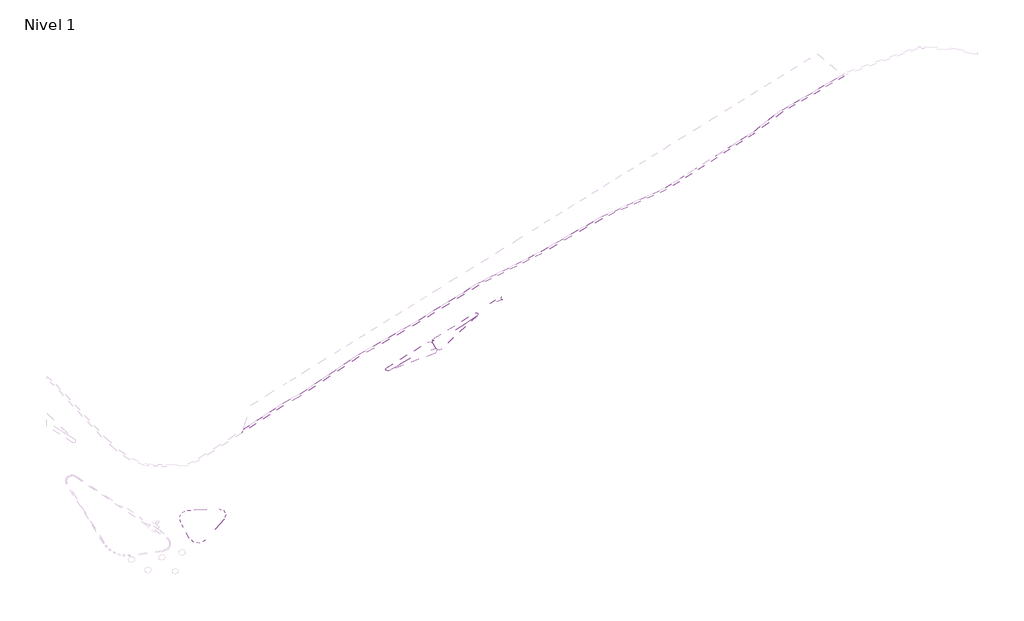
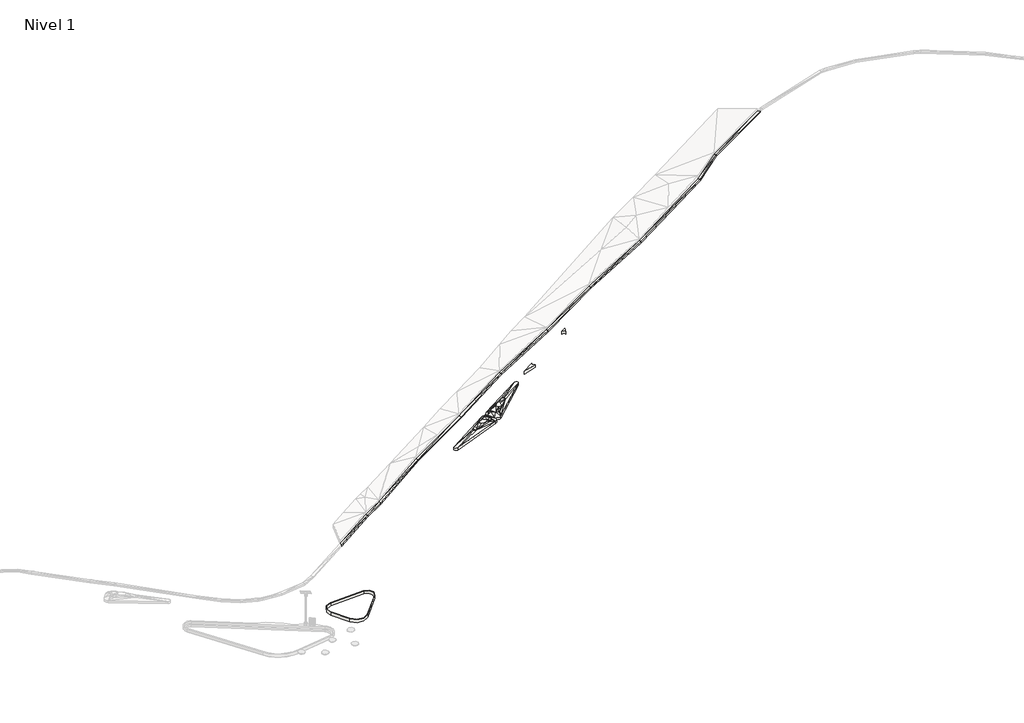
# One storey, part 40 of 45: 5 slabs.
"""IFC4 building model written with IfcOpenShell, lengths in millimetres."""

from ifc_helpers import new_model, si_unit, point, frame, frame_2d, origin, place, context, project, spatial, polyline, circle_curve, trimmed, segment, composite_curve, outline, extrude, faceted_brep, element, save
from ifc_brep_helpers import plane_surface, cylinder_surface, revolved_surface, spline_surface, advanced_brep

model = new_model("IFC4")

# Units and contexts
model_context = context("Model", 3, world=origin())
ifc_project = project(units=[si_unit("LENGTHUNIT", "METRE", prefix="MILLI")], contexts=[model_context])

# Site, building, storey
site = spatial("IfcSite", under=ifc_project)
building = spatial("IfcBuilding", under=site)
storey = spatial("IfcBuildingStorey", under=building, Name="Nivel 1", Elevation=0.0)

# Slabs
placement = place(None, origin())
element("IfcSlab", 1, ObjectType="Lippia", at=placement, inside=storey, context=model_context, shape_type="AdvancedBrep", body=[
    advanced_brep(
    [(-19446.5890111, 959703.6329509, 5950.0), (-19446.5890111, 959703.6329509, 6250.0), (-18975.1453315, 958944.8251491, 6250.0), (-18975.1453315, 958944.8251491, 5950.0), (-19225.9117559, 958212.1872078, 6250.0), (-19225.9117559, 958212.1872078, 5950.0), (-25838.6760078, 955734.2885245, 6250.0), (-25838.6760078, 955734.2885245, 5950.0), (-26057.2546137, 956181.4156722, 5950.0), (-26057.2546137, 956181.4156722, 6250.0), (-20131.8371709, 959862.7200023, 6250.0), (-20131.8371709, 959862.7200023, 5950.0), (-19649.2271001, 958771.1200759, 6550.0), (-19753.8031912, 959260.6513039, 6550.0), (-19649.2271001, 958771.1200759, 6250.0), (-19753.8031912, 959260.6513039, 6250.0), (-21224.1040418, 958074.0090709, 6750.0), (-20934.3795615, 958077.0677058, 6750.0), (-20644.6550812, 958080.1263408, 6750.0), (-20400.4890803, 958369.9356582, 6750.0), (-20717.556971, 958688.2029752, 6750.0), (-21000.0734548, 958628.1484551, 6750.0), (-21233.3973375, 958578.5508048, 6750.0), (-21476.9887009, 958294.5785488, 6750.0), (-21224.1040418, 958074.0090709, 6450.0), (-21476.9887009, 958294.5785488, 6450.0), (-21233.3973375, 958578.5508048, 6450.0), (-21000.0734548, 958628.1484551, 6450.0), (-20717.556971, 958688.2029752, 6450.0), (-20400.4890803, 958369.9356582, 6450.0), (-20644.6550812, 958080.1263408, 6450.0), (-20934.3795615, 958077.0677058, 6450.0), (-20133.0261533, 959418.9947849, 6550.0), (-19901.9576867, 959439.1099918, 6550.0), (-20133.0261533, 959418.9947849, 6250.0), (-19901.9576867, 959439.1099918, 6250.0), (-19704.3209542, 958411.8674862, 6550.0), (-19704.3209542, 958411.8674862, 6250.0), (-19988.1429688, 958184.8370477, 6550.0), (-22342.9181989, 957437.8532576, 6550.0), (-22342.9181989, 957437.8532576, 6250.0), (-19988.1429688, 958184.8370477, 6250.0), (-22552.2219701, 957887.3889263, 6550.0), (-22552.2219701, 957887.3889263, 6250.0), (-22645.1445693, 957570.6186077, 6550.0), (-22645.1445693, 957570.6186077, 6250.0)],
    [
        (0, 1),
        (1, 2),
        (2, 3),
        (3, 0),
        (2, 4, circle_curve(frame((-19399.8530565, 958680.9562587, 6250.0), z_axis=(0.0, 0.0, -1.0), x_axis=(0.6008786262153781, -0.7993402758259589, 0.0)), 499.9999992)),
        (4, 5),
        (5, 3, circle_curve(frame((-19399.8530565, 958680.9562587, 5950.0), z_axis=(0.0, 0.0, 1.0), x_axis=(0.6008786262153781, -0.7993402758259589, 0.0)), 499.9999992)),
        (4, 6),
        (6, 7),
        (7, 5),
        (8, 9),
        (9, 10),
        (10, 11),
        (11, 8),
        (10, 1, circle_curve(frame((-19869.5763637, 959437.0214363, 6250.0), z_axis=(0.0, 0.0, -1.0), x_axis=(0.6008786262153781, -0.7993402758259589, 0.0)), 500.0000001)),
        (0, 11, circle_curve(frame((-19869.5763637, 959437.0214363, 5950.0), z_axis=(0.0, 0.0, 1.0), x_axis=(0.6008786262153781, -0.7993402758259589, 0.0)), 500.0000001)),
        (2, 12),
        (12, 4),
        (1, 13),
        (13, 2),
        (5, 14),
        (14, 3),
        (3, 15),
        (15, 0),
        (16, 17),
        (17, 18),
        (18, 19),
        (19, 20),
        (20, 21),
        (21, 22),
        (22, 23),
        (23, 16),
        (24, 25),
        (25, 26),
        (26, 27),
        (27, 28),
        (28, 29),
        (29, 30),
        (30, 31),
        (31, 24),
        (20, 32),
        (32, 22),
        (10, 32),
        (32, 33),
        (33, 10),
        (19, 32),
        (26, 34),
        (34, 28),
        (11, 35),
        (35, 34),
        (34, 11),
        (34, 29),
        (32, 12),
        (12, 13),
        (13, 33),
        (19, 12),
        (12, 36),
        (36, 4),
        (35, 15),
        (15, 14),
        (14, 34),
        (14, 29),
        (5, 37),
        (37, 14),
        (4, 38),
        (38, 39),
        (39, 4),
        (19, 38),
        (38, 36),
        (36, 19),
        (5, 40),
        (40, 41),
        (41, 5),
        (29, 37),
        (37, 41),
        (41, 29),
        (22, 42),
        (42, 23),
        (23, 39),
        (39, 16),
        (39, 18),
        (25, 43),
        (43, 26),
        (24, 40),
        (40, 25),
        (30, 40),
        (42, 39),
        (40, 43),
        (1, 33),
        (35, 0),
        (10, 42),
        (42, 32),
        (42, 44),
        (44, 39),
        (18, 38),
        (34, 43),
        (43, 11),
        (40, 45),
        (45, 43),
        (41, 30),
        (6, 9, circle_curve(frame((-25926.3997952, 955968.3968558, 6250.0), z_axis=(0.0, 0.0, -1.0), x_axis=(0.6008786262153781, -0.7993402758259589, 0.0)), 249.9999994)),
        (8, 7, circle_curve(frame((-25926.3997952, 955968.3968558, 5950.0), z_axis=(0.0, 0.0, 1.0), x_axis=(0.6008786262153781, -0.7993402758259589, 0.0)), 249.9999994)),
        (9, 42),
        (9, 44),
        (6, 44),
        (6, 39),
        (43, 8),
        (45, 8),
        (45, 7),
        (40, 7),
    ],
    [
        plane_surface(frame((-19446.5890111, 959703.6329509, 5950.0), z_axis=(0.8494096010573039, 0.5277341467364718, 0.0), x_axis=(0.0, 0.0, 1.0))),
        cylinder_surface(frame((-19399.8530565, 958680.9562587, 6250.0), z_axis=(0.0, 0.0, -1.0000000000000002), x_axis=(0.6008786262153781, -0.7993402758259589, 0.0)), 499.9999992),
        plane_surface(frame((-19225.9117559, 958212.1872078, 5950.0), z_axis=(0.35088904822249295, -0.9364170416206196, 0.0), x_axis=(0.0, 0.0, 1.0))),
        plane_surface(frame((-26057.2546137, 956181.4156722, 5950.0), z_axis=(-0.527720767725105, 0.8494179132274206, 0.0), x_axis=(0.0, 0.0, 1.0))),
        cylinder_surface(frame((-19869.5763637, 959437.0214363, 6250.0), z_axis=(0.0, 0.0, -1.0000000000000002), x_axis=(0.6008786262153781, -0.7993402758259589, 0.0)), 500.0000001),
        spline_surface(2, 1, [[(-19225.9117559, 958212.1872078, 6250.0), (-19649.2271001, 958771.1200759, 6550.0)], [(-19003.58791020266, 958294.6826259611, 6250.0), (-19649.2271001, 958771.1200759, 6550.0)], [(-18926.795754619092, 958519.0402672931, 6250.0), (-19649.2271001, 958771.1200759, 6550.0)], [(-18850.003599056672, 958743.3979086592, 6250.0), (-19649.2271001, 958771.1200759, 6550.0)], [(-18975.1482567, 958944.8233317, 6250.0), (-19649.2271001, 958771.1200759, 6550.0)]], [3, 2, 3], [2, 2], [0.0, 1.0, 2.0], [0.0, 1.0], weights=[[1.0, 1.0], [0.9035324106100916, 0.9035324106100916], [1.0, 1.0], [0.9035324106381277, 0.9035324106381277], [1.0, 1.0]]),
        plane_surface(frame((-19391.8458446, 959303.036468, 6350.0), z_axis=(0.4404279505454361, 0.2736357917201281, 0.8550711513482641), x_axis=(-0.5277341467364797, 0.849409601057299, 0.0))),
        spline_surface(1, 2, [[(-19225.9117559, 958212.1872078, 5950.0), (-19003.58791020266, 958294.6826259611, 5950.0), (-18926.795754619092, 958519.0402672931, 5950.0), (-18850.003599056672, 958743.3979086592, 5950.0), (-18975.1482567, 958944.8233317, 5950.0)], [(-19649.2271001, 958771.1200759, 6250.0), (-19649.2271001, 958771.1200759, 6250.0), (-19649.2271001, 958771.1200759, 6250.0), (-19649.2271001, 958771.1200759, 6250.0), (-19649.2271001, 958771.1200759, 6250.0)]], [2, 2], [3, 2, 3], [0.0, 1.0], [0.0, 1.0, 2.0], weights=[[1.0, 0.9035324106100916, 1.0, 0.9035324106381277, 1.0], [1.0, 0.9035324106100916, 1.0, 0.9035324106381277, 1.0]]),
        plane_surface(frame((-19391.8458446, 959303.036468, 6050.0), z_axis=(-0.4404279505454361, -0.2736357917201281, -0.8550711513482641), x_axis=(-0.5277341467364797, 0.849409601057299, 0.0))),
        plane_surface(frame((-20949.5318688, 958347.5672331, 6750.0), z_axis=(0.0, 0.0, 1.0), x_axis=(0.9999442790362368, 0.01055645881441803, 0.0))),
        plane_surface(frame((-20949.5318688, 958347.5672331, 6450.0), z_axis=(0.0, 0.0, -1.0), x_axis=(0.9999442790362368, 0.01055645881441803, 0.0))),
        plane_surface(frame((-20694.660154, 958895.2495216, 6683.3333333), z_axis=(-0.06642033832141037, 0.3124634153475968, 0.947604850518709), x_axis=(0.9781449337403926, 0.20792423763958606, 0.0))),
        plane_surface(frame((-20055.6070036, 959573.6082597, 6450.0), z_axis=(-0.04870791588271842, 0.5595201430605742, 0.8273842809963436), x_axis=(-0.002219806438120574, -0.8284260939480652, 0.5600939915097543))),
        plane_surface(frame((-20417.0240682, 958825.7111394, 6683.3333333), z_axis=(0.1489663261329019, 0.1484049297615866, 0.9776425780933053), x_axis=(0.24294125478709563, 0.9528787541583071, -0.18166349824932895))),
        plane_surface(frame((-20694.660154, 958895.2495216, 6383.3333333), z_axis=(0.06642033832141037, -0.3124634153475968, -0.947604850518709), x_axis=(0.9781449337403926, 0.20792423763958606, 0.0))),
        plane_surface(frame((-20055.6070036, 959573.6082597, 6150.0), z_axis=(0.04870791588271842, -0.5595201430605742, -0.8273842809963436), x_axis=(-0.002219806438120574, -0.8284260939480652, 0.5600939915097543))),
        plane_surface(frame((-20417.0240682, 958825.7111394, 6383.3333333), z_axis=(-0.1489663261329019, -0.1484049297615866, -0.9776425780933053), x_axis=(0.24294125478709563, 0.9528787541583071, -0.18166349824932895))),
        plane_surface(frame((-19859.5035328, 959222.4690391, 6550.0), z_axis=(0.0, 0.0, 1.0), x_axis=(0.5983310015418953, -0.8012490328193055, 0.0))),
        plane_surface(frame((-20060.9141112, 958853.350173, 6616.6666667), z_axis=(0.18517075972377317, 0.13827586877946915, 0.9729293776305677), x_axis=(0.8587430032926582, 0.4585807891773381, -0.22861346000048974))),
        plane_surface(frame((-19526.4866034, 958465.0582566, 6450.0), z_axis=(0.5062040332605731, -0.07762986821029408, 0.8589127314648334), x_axis=(-0.5550743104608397, 0.7329034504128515, 0.3933764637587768))),
        plane_surface(frame((-19459.3918743, 958992.198843, 6450.0), z_axis=(0.387331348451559, 0.08274364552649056, 0.9182199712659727), x_axis=(-0.872720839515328, 0.35397840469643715, 0.3362404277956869))),
        plane_surface(frame((-19859.5035328, 959222.4690391, 6250.0), z_axis=(0.0, 0.0, -1.0), x_axis=(0.5983310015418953, -0.8012490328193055, 0.0))),
        plane_surface(frame((-20060.9141112, 958853.350173, 6316.6666667), z_axis=(-0.18517075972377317, -0.13827586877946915, -0.9729293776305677), x_axis=(0.8587430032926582, 0.4585807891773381, -0.22861346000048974))),
        plane_surface(frame((-19526.4866034, 958465.0582566, 6150.0), z_axis=(-0.5062040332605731, 0.07762986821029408, -0.8589127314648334), x_axis=(-0.5550743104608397, 0.7329034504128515, 0.3933764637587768))),
        plane_surface(frame((-19459.3918743, 958992.198843, 6150.0), z_axis=(-0.387331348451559, -0.08274364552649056, -0.9182199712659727), x_axis=(-0.872720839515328, 0.35397840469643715, 0.3362404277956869))),
        plane_surface(frame((-20518.9909745, 957944.959171, 6450.0), z_axis=(0.24988136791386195, -0.7877205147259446, 0.5630769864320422), x_axis=(-0.9300037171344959, -0.0333701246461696, 0.3660321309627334))),
        plane_surface(frame((-20030.9843344, 958322.2133973, 6616.6666667), z_axis=(0.27817373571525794, -0.3477587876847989, 0.895367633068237), x_axis=(0.8342732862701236, -0.3744980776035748, -0.4046470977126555))),
        plane_surface(frame((-20518.9909745, 957944.959171, 6150.0), z_axis=(-0.24988136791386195, 0.7877205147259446, -0.5630769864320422), x_axis=(-0.9300037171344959, -0.0333701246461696, 0.3660321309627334))),
        plane_surface(frame((-20030.9843344, 958322.2133973, 6316.6666667), z_axis=(-0.27817373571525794, 0.3477587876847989, -0.895367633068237), x_axis=(0.8342732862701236, -0.3744980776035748, -0.4046470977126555))),
        plane_surface(frame((-21754.2026695, 958253.5060933, 6683.3333333), z_axis=(-0.25897036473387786, 0.22214474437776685, 0.9399925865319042), x_axis=(0.6510787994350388, 0.7590101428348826, 0.0))),
        plane_surface(frame((-21681.3369805, 957935.4802924, 6683.3333333), z_axis=(-0.10677768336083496, -0.12242146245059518, 0.9867175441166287), x_axis=(-0.7536163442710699, 0.6573145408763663, 0.0))),
        plane_surface(frame((-21403.8924406, 957863.9962231, 6683.3333333), z_axis=(0.0032205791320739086, -0.30506439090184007, 0.9523262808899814), x_axis=(-0.8589913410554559, -0.48842100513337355, -0.1535538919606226))),
        plane_surface(frame((-21754.2026695, 958253.5060933, 6383.3333333), z_axis=(0.25897036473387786, -0.22214474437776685, -0.9399925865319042), x_axis=(0.6510787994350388, 0.7590101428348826, 0.0))),
        plane_surface(frame((-21681.3369805, 957935.4802924, 6383.3333333), z_axis=(0.10677768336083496, 0.12242146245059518, -0.9867175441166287), x_axis=(-0.7536163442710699, 0.6573145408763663, 0.0))),
        plane_surface(frame((-21403.8924406, 957863.9962231, 6383.3333333), z_axis=(-0.0032205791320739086, 0.30506439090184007, -0.9523262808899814), x_axis=(-0.8589913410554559, -0.48842100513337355, -0.1535538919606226))),
        plane_surface(frame((-22124.0429566, 957873.2735776, 6616.6666667), z_axis=(-0.15577331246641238, -0.07252804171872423, 0.9851265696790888), x_axis=(-0.9213514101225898, -0.34891473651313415, -0.17137702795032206))),
        plane_surface(frame((-22124.0429566, 957873.2735776, 6316.6666667), z_axis=(0.15577331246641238, 0.07252804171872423, -0.9851265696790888), x_axis=(-0.9213514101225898, -0.34891473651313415, -0.17137702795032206))),
        plane_surface(frame((-19700.7832964, 959467.7980822, 6450.0), z_axis=(0.38486293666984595, 0.3195090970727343, 0.8659067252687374), x_axis=(-0.7513342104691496, -0.4364488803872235, 0.49498411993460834))),
        spline_surface(2, 1, [[(-19446.5890111, 959703.6329509, 6250.0), (-19901.9576867, 959439.1099918, 6550.0)], [(-19710.480950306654, 960122.3056138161, 6250.0), (-19901.9576867, 959439.1099918, 6550.0)], [(-20131.8371709, 959862.7200023, 6250.0), (-19901.9576867, 959439.1099918, 6550.0)]], [3, 3], [2, 2], [0.0, 1.0], [0.0, 1.0], weights=[[1.0, 1.0], [0.7107223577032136, 0.7107223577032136], [1.0, 1.0]]),
        plane_surface(frame((-19700.7832964, 959467.7980822, 6150.0), z_axis=(-0.38486293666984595, -0.3195090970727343, -0.8659067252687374), x_axis=(-0.7513342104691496, -0.4364488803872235, 0.49498411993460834))),
        spline_surface(1, 2, [[(-19446.5890111, 959703.6329509, 5950.0), (-19710.480950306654, 960122.3056138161, 5950.0), (-20131.8371709, 959862.7200023, 5950.0)], [(-19901.9576867, 959439.1099918, 6250.0), (-19901.9576867, 959439.1099918, 6250.0), (-19901.9576867, 959439.1099918, 6250.0)]], [2, 2], [3, 3], [0.0, 1.0], [0.0, 1.0], weights=[[1.0, 0.7107223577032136, 1.0], [1.0, 0.7107223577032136, 1.0]]),
        plane_surface(frame((-19918.0123782, 958517.6410734, 6616.6666667), z_axis=(0.27824010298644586, -0.04267003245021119, 0.9595632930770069), x_axis=(0.9595171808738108, 0.05779395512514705, -0.2756567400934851))),
        plane_surface(frame((-19918.0123782, 958517.6410734, 6316.6666667), z_axis=(-0.27824010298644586, 0.04267003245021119, -0.9595632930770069), x_axis=(0.9595171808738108, 0.05779395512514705, -0.2756567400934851))),
        plane_surface(frame((-20939.0284314, 959056.3679045, 6450.0), z_axis=(-0.33455538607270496, 0.5284355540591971, 0.7802746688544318), x_axis=(-0.7711910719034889, -0.6293865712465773, 0.09558699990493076))),
        plane_surface(frame((-22513.4282461, 957631.9535972, 6550.0), z_axis=(0.0, 0.0, 1.0), x_axis=(-0.422091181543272, 0.9065533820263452, 0.0))),
        plane_surface(frame((-20344.4290434, 958211.6330155, 6683.3333333), z_axis=(0.31970374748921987, -0.2693522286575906, 0.9084266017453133), x_axis=(-0.6443149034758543, -0.7647602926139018, 0.0))),
        plane_surface(frame((-19639.4585596, 958269.6305806, 6450.0), z_axis=(0.3439652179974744, -0.43000798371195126, 0.8347341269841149), x_axis=(-0.7987392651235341, 0.3333808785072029, 0.5008720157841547))),
        plane_surface(frame((-20939.0284314, 959056.3679045, 6150.0), z_axis=(0.33455538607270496, -0.5284355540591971, -0.7802746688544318), x_axis=(-0.7711910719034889, -0.6293865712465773, 0.09558699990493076))),
        plane_surface(frame((-22513.4282461, 957631.9535972, 6250.0), z_axis=(0.0, 0.0, -1.0), x_axis=(-0.422091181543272, 0.9065533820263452, 0.0))),
        plane_surface(frame((-20344.4290434, 958211.6330155, 6383.3333333), z_axis=(-0.31970374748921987, 0.2693522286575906, -0.9084266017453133), x_axis=(-0.6443149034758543, -0.7647602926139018, 0.0))),
        plane_surface(frame((-19639.4585596, 958269.6305806, 6150.0), z_axis=(-0.3439652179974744, 0.43000798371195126, -0.8347341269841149), x_axis=(-0.7987392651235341, 0.3333808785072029, 0.5008720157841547))),
        plane_surface(frame((-21306.2151536, 958628.3115053, 6616.6666667), z_axis=(-0.45717434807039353, 0.7221141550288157, 0.5191750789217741), x_axis=(0.7865489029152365, 0.600752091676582, -0.14296065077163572))),
        plane_surface(frame((-21306.2151536, 958628.3115053, 6316.6666667), z_axis=(0.45717434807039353, -0.7221141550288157, -0.5191750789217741), x_axis=(0.7865489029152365, 0.600752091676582, -0.14296065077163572))),
        plane_surface(frame((-20991.9054163, 957900.938882, 6616.6666667), z_axis=(0.27115002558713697, -0.854767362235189, 0.4425499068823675), x_axis=(-0.9297198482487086, -0.3516145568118, -0.10949067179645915))),
        plane_surface(frame((-20991.9054163, 957900.938882, 6316.6666667), z_axis=(-0.27115002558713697, 0.854767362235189, -0.4425499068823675), x_axis=(-0.9297198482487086, -0.3516145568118, -0.10949067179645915))),
        cylinder_surface(frame((-25926.3997952, 955968.3968558, 6250.0), z_axis=(0.0, 0.0, -1.0000000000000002), x_axis=(0.6008786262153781, -0.7993402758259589, 0.0)), 249.9999994),
        plane_surface(frame((-22913.7712515, 957977.174867, 6350.0), z_axis=(-0.31633159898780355, 0.5091664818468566, 0.8004272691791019), x_axis=(-0.8494179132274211, -0.5277207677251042, 0.0))),
        plane_surface(frame((-23751.5403844, 957213.1410687, 6450.0), z_axis=(-0.09931084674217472, 0.02913221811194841, 0.9946299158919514), x_axis=(-0.8965011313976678, -0.43634599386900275, -0.0767326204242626))),
        spline_surface(2, 1, [[(-26057.2546137, 956181.4156722, 6250.0), (-22645.1445693, 957570.6186077, 6550.0)], [(-26250.71304071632, 956062.5765584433, 6250.0), (-22645.1445693, 957570.6186077, 6550.0)], [(-26150.99913998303, 955858.6009816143, 6250.0), (-22645.1445693, 957570.6186077, 6550.0)], [(-26051.285239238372, 955654.6254047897, 6250.0), (-22645.1445693, 957570.6186077, 6550.0)], [(-25838.6775334, 955734.292596, 6250.0), (-22645.1445693, 957570.6186077, 6550.0)]], [3, 2, 3], [2, 2], [0.0, 1.0, 2.0], [0.0, 1.0], weights=[[1.0, 1.0], [0.7402773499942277, 0.7402773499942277], [1.0, 1.0], [0.7402773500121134, 0.7402773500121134], [1.0, 1.0]]),
        plane_surface(frame((-23608.9129253, 956914.2534632, 6450.0), z_axis=(-0.040478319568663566, -0.09214464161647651, 0.9949225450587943), x_axis=(-0.9155541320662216, 0.40219476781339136, 0.0))),
        plane_surface(frame((-22469.1686542, 957128.1096633, 6350.0), z_axis=(0.22148724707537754, -0.591082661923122, 0.7756060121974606), x_axis=(-0.9662954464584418, -0.24004934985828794, 0.09300225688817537))),
        plane_surface(frame((-22913.7712515, 957977.174867, 6050.0), z_axis=(0.31633159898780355, -0.5091664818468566, -0.8004272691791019), x_axis=(-0.8494179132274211, -0.5277207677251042, 0.0))),
        plane_surface(frame((-23751.5403844, 957213.1410687, 6150.0), z_axis=(0.09931084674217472, -0.02913221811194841, -0.9946299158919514), x_axis=(-0.8965011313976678, -0.43634599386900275, -0.0767326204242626))),
        spline_surface(1, 2, [[(-26057.2546137, 956181.4156722, 5950.0), (-26250.71304071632, 956062.5765584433, 5950.0), (-26150.99913998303, 955858.6009816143, 5950.0), (-26051.285239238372, 955654.6254047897, 5950.0), (-25838.6775334, 955734.292596, 5950.0)], [(-22645.1445693, 957570.6186077, 6250.0), (-22645.1445693, 957570.6186077, 6250.0), (-22645.1445693, 957570.6186077, 6250.0), (-22645.1445693, 957570.6186077, 6250.0), (-22645.1445693, 957570.6186077, 6250.0)]], [2, 2], [3, 2, 3], [0.0, 1.0], [0.0, 1.0, 2.0], weights=[[1.0, 0.7402773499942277, 1.0, 0.7402773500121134, 1.0], [1.0, 0.7402773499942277, 1.0, 0.7402773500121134, 1.0]]),
        plane_surface(frame((-23608.9129253, 956914.2534632, 6150.0), z_axis=(0.040478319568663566, 0.09214464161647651, -0.9949225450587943), x_axis=(-0.9155541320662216, 0.40219476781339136, 0.0))),
        plane_surface(frame((-22469.1686542, 957128.1096633, 6050.0), z_axis=(-0.22148724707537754, 0.591082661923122, -0.7756060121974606), x_axis=(-0.9662954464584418, -0.24004934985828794, 0.09300225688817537))),
    ],
    [
        (0, [[1, 2, 3, 4]]),
        (1, [[-3, 5, 6, 7]]),
        (2, [[-6, 8, 9, 10]]),
        (3, [[11, 12, 13, 14]]),
        (4, [[-13, 15, -1, 16]]),
        (5, [[-5, 17, 18]]),
        (6, [[-2, 19, 20]]),
        (7, [[21, 22, -7]]),
        (8, [[23, 24, -4]]),
        (9, [[25, 26, 27, 28, 29, 30, 31, 32]]),
        (10, [[33, 34, 35, 36, 37, 38, 39, 40]]),
        (11, [[-29, 41, 42, -30]]),
        (12, [[43, 44, 45]]),
        (13, [[46, -41, -28]]),
        (14, [[-35, 47, 48, -36]]),
        (15, [[49, 50, 51]]),
        (16, [[-37, -48, 52]]),
        (17, [[53, 54, 55, -44]]),
        (18, [[56, -53, -46]]),
        (19, [[-18, 57, 58]]),
        (20, [[-20, -54, -17]]),
        (21, [[-50, 59, 60, 61]]),
        (22, [[-52, -61, 62]]),
        (23, [[63, 64, -21]]),
        (24, [[-22, -60, -23]]),
        (25, [[65, 66, 67]]),
        (26, [[68, 69, 70]]),
        (27, [[71, 72, 73]]),
        (28, [[74, 75, 76]]),
        (29, [[-31, 77, 78]]),
        (30, [[-32, 79, 80]]),
        (31, [[-80, 81, -26, -25]]),
        (32, [[82, 83, -34]]),
        (33, [[84, 85, -33]]),
        (34, [[-40, -39, 86, -84]]),
        (35, [[-78, 87, -79]]),
        (36, [[-85, 88, -82]]),
        (37, [[89, -55, -19]]),
        (38, [[-45, -89, -15]]),
        (39, [[-24, -59, 90]]),
        (40, [[-16, -90, -49]]),
        (41, [[-70, -57, -56]]),
        (42, [[-62, -64, -74]]),
        (43, [[91, 92, -43]]),
        (44, [[-87, 93, 94]]),
        (45, [[-27, 95, -68]]),
        (46, [[-58, -69, -65]]),
        (47, [[-51, 96, 97]]),
        (48, [[98, 99, -88]]),
        (49, [[-76, 100, -38]]),
        (50, [[-73, -75, -63]]),
        (51, [[-42, -92, -77]]),
        (52, [[-83, -96, -47]]),
        (53, [[-81, -66, -95]]),
        (54, [[-100, -72, -86]]),
        (55, [[-9, 101, -11, 102]]),
        (56, [[-12, 103, -91]]),
        (57, [[-103, 104, -93]]),
        (58, [[-104, -101, 105]]),
        (59, [[-94, -105, 106]]),
        (60, [[-67, -106, -8]]),
        (61, [[-97, 107, -14]]),
        (62, [[-99, 108, -107]]),
        (63, [[109, -102, -108]]),
        (64, [[110, -109, -98]]),
        (65, [[-10, -110, -71]]),
    ],
),
])
element("IfcSlab", 2, ObjectType="Lippia", at=placement, inside=storey, context=model_context, shape_type="AdvancedBrep", body=[
    advanced_brep(
    [(-18962.8531917, 958925.0107383, 5950.0), (-18962.8531917, 958925.0107383, 6250.0), (-19446.0462943, 959703.9005931, 6250.0), (-19446.0462943, 959703.9005931, 5950.0), (-18187.1226395, 958866.1088006, 5950.0), (-18187.1226395, 958866.1088006, 6250.0), (-13063.0758996, 963663.8830706, 5950.0), (-13063.0758996, 963663.8830706, 6250.0), (-19284.6498007, 960388.6084886, 5950.0), (-19284.6498007, 960388.6084886, 6250.0), (-13338.3055613, 964073.5387329, 6250.0), (-13338.3055613, 964073.5387329, 5950.0), (-17459.5581025, 960057.4549525, 6750.0), (-17197.0334642, 960574.0586044, 6750.0), (-17294.6976304, 960892.4336845, 6750.0), (-17626.747181, 960837.5681828, 6750.0), (-17793.0470566, 960619.091468, 6750.0), (-17989.9308846, 960377.6277947, 6750.0), (-17827.6042225, 959967.185744, 6750.0), (-18528.0393136, 959462.1658368, 6550.0), (-18924.0908754, 959775.8450547, 6550.0), (-17459.5581025, 960057.4549525, 6450.0), (-17827.6042225, 959967.185744, 6450.0), (-17989.9308846, 960377.6277947, 6450.0), (-17793.0470566, 960619.091468, 6450.0), (-17626.747181, 960837.5681828, 6450.0), (-17294.6976304, 960892.4336845, 6450.0), (-17197.0334642, 960574.0586044, 6450.0), (-18528.0393136, 959462.1658368, 6250.0), (-18924.0908754, 959775.8450547, 6250.0), (-16142.3194183, 961288.4113507, 6550.0), (-16452.4514936, 961675.3325875, 6550.0), (-16142.3194183, 961288.4113507, 6250.0), (-16452.4514936, 961675.3325875, 6250.0), (-18898.9042582, 960185.3519186, 6550.0), (-19019.4659231, 959964.724647, 6550.0), (-18898.9042582, 960185.3519186, 6250.0), (-19019.4659231, 959964.724647, 6250.0), (-18183.4656508, 959355.2888466, 6550.0), (-18183.4656508, 959355.2888466, 6250.0), (-17856.6647352, 959508.1118218, 6550.0), (-17856.6647352, 959508.1118218, 6250.0), (-16127.3259661, 961618.1728003, 6550.0), (-16127.3259661, 961618.1728003, 6250.0)],
    [
        (0, 1),
        (1, 2),
        (2, 3),
        (3, 0),
        (4, 5),
        (5, 1, circle_curve(frame((-18551.2023292, 959208.8127253, 6250.0), z_axis=(0.0, 0.0, -1.0), x_axis=(1.0, 0.0, 0.0)), 500.0000005)),
        (0, 4, circle_curve(frame((-18551.2023292, 959208.8127253, 5950.0), z_axis=(0.0, 0.0, 1.0), x_axis=(1.0, 0.0, 0.0)), 500.0000005)),
        (6, 7),
        (7, 5),
        (4, 6),
        (8, 9),
        (9, 10),
        (10, 11),
        (11, 8),
        (2, 9, circle_curve(frame((-19019.4659231, 959964.724647, 6250.0), z_axis=(0.0, 0.0, -1.0), x_axis=(1.0, 0.0, 0.0)), 500.0000001)),
        (8, 3, circle_curve(frame((-19019.4659231, 959964.724647, 5950.0), z_axis=(0.0, 0.0, 1.0), x_axis=(1.0, 0.0, 0.0)), 500.0000001)),
        (12, 13),
        (13, 14),
        (14, 15),
        (15, 16),
        (16, 17),
        (17, 18),
        (18, 12),
        (5, 19),
        (19, 1),
        (1, 20),
        (20, 2),
        (21, 22),
        (22, 23),
        (23, 24),
        (24, 25),
        (25, 26),
        (26, 27),
        (27, 21),
        (0, 28),
        (28, 4),
        (3, 29),
        (29, 0),
        (13, 30),
        (30, 14),
        (14, 31),
        (31, 15),
        (26, 32),
        (32, 27),
        (25, 33),
        (33, 26),
        (30, 31),
        (12, 30),
        (33, 32),
        (32, 21),
        (34, 9),
        (9, 35),
        (35, 34),
        (16, 34),
        (34, 17),
        (36, 37),
        (37, 8),
        (8, 36),
        (23, 36),
        (36, 24),
        (2, 35),
        (35, 20),
        (20, 19),
        (19, 34),
        (37, 3),
        (36, 28),
        (28, 29),
        (29, 37),
        (19, 17),
        (19, 18),
        (5, 38),
        (38, 19),
        (23, 28),
        (22, 28),
        (28, 39),
        (39, 4),
        (40, 18),
        (18, 38),
        (38, 40),
        (40, 5),
        (5, 30),
        (30, 40),
        (41, 39),
        (39, 22),
        (22, 41),
        (41, 32),
        (32, 4),
        (4, 41),
        (34, 15),
        (31, 34),
        (31, 9),
        (36, 33),
        (25, 36),
        (8, 33),
        (40, 12),
        (21, 41),
        (42, 31),
        (30, 42),
        (43, 32),
        (33, 43),
        (10, 7, circle_curve(frame((-13233.9729821, 963846.3500175, 6250.0), z_axis=(0.0, 0.0, -1.0), x_axis=(1.0, 0.0, 0.0)), 249.999999)),
        (6, 11, circle_curve(frame((-13233.9729821, 963846.3500175, 5950.0), z_axis=(0.0, 0.0, 1.0), x_axis=(1.0, 0.0, 0.0)), 249.999999)),
        (31, 10),
        (42, 10),
        (42, 7),
        (30, 7),
        (11, 33),
        (11, 43),
        (6, 43),
        (6, 32),
    ],
    [
        plane_surface(frame((-18962.8531917, 958925.0107383, 5950.0), z_axis=(-0.8497651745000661, -0.5271614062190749, 0.0), x_axis=(0.0, 0.0, 1.0))),
        cylinder_surface(frame((-18551.2023292, 959208.8127253, 6250.0), z_axis=(0.0, 0.0, -1.0), x_axis=(1.0, 0.0, 0.0)), 500.0000005),
        plane_surface(frame((-13063.0758996, 963663.8830706, 5950.0), z_axis=(0.6834845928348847, -0.7299649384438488, 0.0), x_axis=(0.0, 0.0, 1.0))),
        plane_surface(frame((-19284.6498007, 960388.6084886, 5950.0), z_axis=(-0.5267534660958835, 0.8500181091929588, 0.0), x_axis=(0.0, 0.0, 1.0))),
        cylinder_surface(frame((-19019.4659231, 959964.724647, 6250.0), z_axis=(0.0, 0.0, -1.0), x_axis=(1.0, 0.0, 0.0)), 500.0000001),
        plane_surface(frame((-17598.3740774, 960475.0600615, 6750.0), z_axis=(0.0, 0.0, 1.0), x_axis=(0.4530338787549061, 0.8914933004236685, 0.0))),
        spline_surface(2, 1, [[(-18962.8531917, 958925.0107383, 6250.0), (-18528.0393136, 959462.1658368, 6550.0)], [(-18827.260034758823, 958728.3347368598, 6250.0), (-18528.0393136, 959462.1658368, 6550.0)], [(-18589.05881725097, 958710.247898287, 6250.0), (-18528.0393136, 959462.1658368, 6550.0)], [(-18350.857599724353, 958692.161059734, 6250.0), (-18528.0393136, 959462.1658368, 6550.0)], [(-18187.1226395, 958866.1088006, 6250.0), (-18528.0393136, 959462.1658368, 6550.0)]], [3, 2, 3], [2, 2], [0.0, 1.0, 2.0], [0.0, 1.0], weights=[[1.0, 1.0], [0.9023052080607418, 0.9023052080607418], [1.0, 1.0], [0.9023052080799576, 0.9023052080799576], [1.0, 1.0]]),
        plane_surface(frame((-19110.9967871, 959468.2521287, 6350.0), z_axis=(-0.4493873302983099, -0.2787824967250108, 0.8487233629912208), x_axis=(0.5271614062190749, -0.8497651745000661, 0.0))),
        plane_surface(frame((-17598.3740774, 960475.0600615, 6450.0), z_axis=(0.0, 0.0, -1.0), x_axis=(0.4530338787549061, 0.8914933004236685, 0.0))),
        spline_surface(1, 2, [[(-18962.8531917, 958925.0107383, 5950.0), (-18827.260034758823, 958728.3347368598, 5950.0), (-18589.05881725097, 958710.247898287, 5950.0), (-18350.857599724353, 958692.161059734, 5950.0), (-18187.1226395, 958866.1088006, 5950.0)], [(-18528.0393136, 959462.1658368, 6250.0), (-18528.0393136, 959462.1658368, 6250.0), (-18528.0393136, 959462.1658368, 6250.0), (-18528.0393136, 959462.1658368, 6250.0), (-18528.0393136, 959462.1658368, 6250.0)]], [2, 2], [3, 2, 3], [0.0, 1.0], [0.0, 1.0, 2.0], weights=[[1.0, 0.9023052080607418, 1.0, 0.9023052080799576, 1.0], [1.0, 0.9023052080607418, 1.0, 0.9023052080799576, 1.0]]),
        plane_surface(frame((-19110.9967871, 959468.2521287, 6050.0), z_axis=(0.4493873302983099, 0.2787824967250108, -0.8487233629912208), x_axis=(0.5271614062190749, -0.8497651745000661, 0.0))),
        plane_surface(frame((-16878.0168377, 960918.3012132, 6683.3333333), z_axis=(0.15492932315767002, 0.04752584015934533, 0.9867817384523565), x_axis=(0.2932699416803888, -0.9560296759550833, 0.0))),
        plane_surface(frame((-17124.6321017, 961135.1114849, 6683.3333333), z_axis=(-0.0489655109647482, 0.29634242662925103, 0.9538257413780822), x_axis=(0.9866223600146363, 0.16302244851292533, 0.0))),
        plane_surface(frame((-16878.0168377, 960918.3012132, 6383.3333333), z_axis=(-0.15492932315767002, -0.04752584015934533, -0.9867817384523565), x_axis=(0.2932699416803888, -0.9560296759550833, 0.0))),
        plane_surface(frame((-17124.6321017, 961135.1114849, 6383.3333333), z_axis=(0.0489655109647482, -0.29634242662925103, -0.9538257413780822), x_axis=(0.9866223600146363, 0.16302244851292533, 0.0))),
        plane_surface(frame((-16629.8228475, 961285.3925409, 6616.6666667), z_axis=(0.1340525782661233, 0.10744823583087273, 0.9851318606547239), x_axis=(-0.7216077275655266, -0.6707610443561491, 0.17135317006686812))),
        plane_surface(frame((-16932.9703283, 960639.9749692, 6683.3333333), z_axis=(0.27503881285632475, -0.139767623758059, 0.9512195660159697), x_axis=(-0.8179466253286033, -0.5539913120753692, 0.15510301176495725))),
        plane_surface(frame((-16629.8228475, 961285.3925409, 6316.6666667), z_axis=(-0.1340525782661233, -0.10744823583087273, -0.9851318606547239), x_axis=(-0.7216077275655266, -0.6707610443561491, 0.17135317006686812))),
        plane_surface(frame((-16932.9703283, 960639.9749692, 6383.3333333), z_axis=(-0.27503881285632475, 0.139767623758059, -0.9512195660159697), x_axis=(-0.8179466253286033, -0.5539913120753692, 0.15510301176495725))),
        plane_surface(frame((-19067.6733273, 960179.5616847, 6450.0), z_axis=(-0.4974503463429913, 0.27183149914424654, 0.8238026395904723), x_axis=(-0.7288436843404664, 0.38404142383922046, -0.5668324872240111))),
        plane_surface(frame((-18227.2940664, 960394.0237271, 6683.3333333), z_axis=(-0.25149920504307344, 0.20506656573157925, 0.9458836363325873), x_axis=(0.6319345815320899, 0.7750217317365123, 0.0))),
        plane_surface(frame((-19067.6733273, 960179.5616847, 6150.0), z_axis=(0.4974503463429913, -0.27183149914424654, -0.8238026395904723), x_axis=(-0.7288436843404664, 0.38404142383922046, -0.5668324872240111))),
        plane_surface(frame((-18227.2940664, 960394.0237271, 6383.3333333), z_axis=(0.25149920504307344, -0.20506656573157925, -0.9458836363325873), x_axis=(0.6319345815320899, 0.7750217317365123, 0.0))),
        revolved_surface(polyline([(-19019.4659231, 959964.724647, 6550.0), (-19284.649800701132, 960388.6084886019, 6249.999999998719)]), (-19019.4659231, 959964.724647, 6550.0), (0.0, -1.3860699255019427e-12, -1.0)),
        plane_surface(frame((-18842.6250925, 959847.0218643, 6550.0), z_axis=(0.0, 0.0, 1.0), x_axis=(0.4507461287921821, -0.8926521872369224, 0.0))),
        plane_surface(frame((-19129.8676976, 959814.8234316, 6450.0), z_axis=(-0.4603801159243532, -0.23246966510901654, 0.856742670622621), x_axis=(-0.7315793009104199, -0.44730956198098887, -0.5144957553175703))),
        revolved_surface(polyline([(-19446.04629430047, 959703.9005930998, 5949.999999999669), (-19019.4659231, 959964.724647, 6250.0)]), (-19019.4659231, 959964.724647, 6250.0), (0.0, -1.3860699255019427e-12, -1.0)),
        plane_surface(frame((-18842.6250925, 959847.0218643, 6250.0), z_axis=(0.0, 0.0, -1.0), x_axis=(0.4507461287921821, -0.8926521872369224, 0.0))),
        plane_surface(frame((-19129.8676976, 959814.8234316, 6150.0), z_axis=(0.4603801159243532, 0.23246966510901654, -0.856742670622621), x_axis=(-0.7315793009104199, -0.44730956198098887, -0.5144957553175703))),
        plane_surface(frame((-18472.2914854, 960008.38185, 6616.6666667), z_axis=(-0.19373427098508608, -0.09935098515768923, 0.9760104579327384), x_axis=(0.4979857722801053, 0.847202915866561, 0.18508751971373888))),
        plane_surface(frame((-18115.1914735, 959935.6597918, 6683.3333333), z_axis=(-0.21609862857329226, -0.0854653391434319, 0.9726238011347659), x_axis=(0.7902274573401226, 0.569760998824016, 0.22563902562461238))),
        plane_surface(frame((-18299.5425346, 959227.8544947, 6450.0), z_axis=(-0.1598014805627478, -0.5152033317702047, 0.8420386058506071), x_axis=(0.45495684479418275, -0.7954443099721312, -0.4003531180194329))),
        plane_surface(frame((-18804.9944602, 959387.6738766, 6450.0), z_axis=(-0.24724233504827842, -0.31216831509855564, 0.917290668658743), x_axis=(-0.04292582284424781, -0.9422234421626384, -0.332223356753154))),
        plane_surface(frame((-18472.2914854, 960008.38185, 6316.6666667), z_axis=(0.19373427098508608, 0.09935098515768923, -0.9760104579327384), x_axis=(0.4979857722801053, 0.847202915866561, 0.18508751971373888))),
        plane_surface(frame((-18115.1914735, 959935.6597918, 6383.3333333), z_axis=(0.21609862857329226, 0.0854653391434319, -0.9726238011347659), x_axis=(0.7902274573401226, 0.569760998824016, 0.22563902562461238))),
        plane_surface(frame((-18299.5425346, 959227.8544947, 6150.0), z_axis=(0.1598014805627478, 0.5152033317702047, -0.8420386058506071), x_axis=(0.45495684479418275, -0.7954443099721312, -0.4003531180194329))),
        plane_surface(frame((-18804.9944602, 959387.6738766, 6150.0), z_axis=(0.24724233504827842, 0.31216831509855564, -0.917290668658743), x_axis=(-0.04292582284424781, -0.9422234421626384, -0.332223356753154))),
        plane_surface(frame((-17955.9115361, 959610.1954708, 6616.6666667), z_axis=(0.18810836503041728, -0.4022561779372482, 0.8959939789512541), x_axis=(0.057936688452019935, 0.915235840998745, 0.3987313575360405))),
        plane_surface(frame((-17395.368931, 959887.543991, 6450.0), z_axis=(0.5926244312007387, -0.5706696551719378, 0.5684473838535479), x_axis=(-0.4226335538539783, -0.8210789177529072, -0.38367993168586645))),
        plane_surface(frame((-17955.9115361, 959610.1954708, 6316.6666667), z_axis=(-0.18810836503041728, 0.4022561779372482, -0.8959939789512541), x_axis=(0.057936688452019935, 0.915235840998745, 0.3987313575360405))),
        plane_surface(frame((-17395.368931, 959887.543991, 6150.0), z_axis=(-0.5926244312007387, 0.5706696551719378, -0.5684473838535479), x_axis=(-0.4226335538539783, -0.8210789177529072, -0.38367993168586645))),
        plane_surface(frame((-18179.7030623, 959594.8801425, 6616.6666667), z_axis=(-0.08249060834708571, -0.2659514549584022, 0.9604504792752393), x_axis=(0.48379362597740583, 0.8318738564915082, 0.2719000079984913))),
        plane_surface(frame((-18179.7030623, 959594.8801425, 6316.6666667), z_axis=(0.08249060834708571, 0.2659514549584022, -0.9604504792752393), x_axis=(0.48379362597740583, 0.8318738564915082, 0.2719000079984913))),
        plane_surface(frame((-17659.3676443, 960899.417563, 6616.6666667), z_axis=(-0.4608446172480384, 0.7566773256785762, 0.46374741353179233), x_axis=(0.881283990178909, 0.45182136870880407, 0.13854955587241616))),
        plane_surface(frame((-18106.2328319, 960547.3371898, 6683.3333333), z_axis=(-0.24527563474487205, 0.18669864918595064, 0.9513061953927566), x_axis=(0.9180320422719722, 0.36007072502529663, 0.16603084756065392))),
        plane_surface(frame((-18212.0018508, 960749.7643316, 6450.0), z_axis=(-0.3253407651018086, 0.5341886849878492, 0.7802536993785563), x_axis=(-0.9062393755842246, -0.4117225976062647, -0.09599321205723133))),
        plane_surface(frame((-17659.3676443, 960899.417563, 6316.6666667), z_axis=(0.4608446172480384, -0.7566773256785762, -0.46374741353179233), x_axis=(0.881283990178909, 0.45182136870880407, 0.13854955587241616))),
        plane_surface(frame((-18106.2328319, 960547.3371898, 6383.3333333), z_axis=(0.24527563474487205, -0.18669864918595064, -0.9513061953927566), x_axis=(0.9180320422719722, 0.36007072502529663, 0.16603084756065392))),
        plane_surface(frame((-18212.0018508, 960749.7643316, 6150.0), z_axis=(0.3253407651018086, -0.5341886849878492, -0.7802536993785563), x_axis=(-0.9062393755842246, -0.4117225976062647, -0.09599321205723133))),
        plane_surface(frame((-17714.6090201, 959844.2508394, 6683.3333333), z_axis=(0.09876805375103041, -0.4026976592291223, 0.9099887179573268), x_axis=(-0.9712146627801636, -0.2382059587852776, 0.0))),
        plane_surface(frame((-17152.8474187, 960284.659375, 6616.6666667), z_axis=(0.65065218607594, -0.6265476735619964, 0.4290568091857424), x_axis=(-0.72617620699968, -0.6786099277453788, 0.11025734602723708))),
        plane_surface(frame((-17714.6090201, 959844.2508394, 6383.3333333), z_axis=(-0.09876805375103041, 0.4026976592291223, -0.9099887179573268), x_axis=(-0.9712146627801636, -0.2382059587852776, 0.0))),
        plane_surface(frame((-17152.8474187, 960284.659375, 6316.6666667), z_axis=(-0.65065218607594, 0.6265476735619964, -0.4290568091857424), x_axis=(-0.72617620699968, -0.6786099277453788, 0.11025734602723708))),
        plane_surface(frame((-16240.6989594, 961527.3055795, 6550.0), z_axis=(0.0, 0.0, 1.0000000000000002), x_axis=(-0.9848949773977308, 0.17315277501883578, 0.0))),
        plane_surface(frame((-18075.7510085, 959243.169823, 6450.0), z_axis=(0.23805051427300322, -0.5090538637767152, 0.82716148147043), x_axis=(-0.006372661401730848, -0.8524441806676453, -0.5227794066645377))),
        plane_surface(frame((-16240.6989594, 961527.3055795, 6250.0), z_axis=(0.0, 0.0, -1.0000000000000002), x_axis=(-0.9848949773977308, 0.17315277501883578, 0.0))),
        plane_surface(frame((-18075.7510085, 959243.169823, 6150.0), z_axis=(-0.23805051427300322, 0.5090538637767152, -0.82716148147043), x_axis=(-0.006372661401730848, -0.8524441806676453, -0.5227794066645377))),
        cylinder_surface(frame((-13233.9729821, 963846.3500175, 6250.0), z_axis=(0.0, 0.0, -1.0), x_axis=(1.0, 0.0, 0.0)), 249.999999),
        plane_surface(frame((-16358.4689519, 962045.826603, 6350.0), z_axis=(-0.3169989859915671, 0.5115388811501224, 0.7986486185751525), x_axis=(-0.8500181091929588, -0.5267534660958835, 0.0))),
        plane_surface(frame((-15306.0276737, 962455.6813736, 6450.0), z_axis=(0.017809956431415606, 0.10130323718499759, 0.9946961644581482), x_axis=(-0.7899930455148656, -0.608374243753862, 0.07610366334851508))),
        spline_surface(2, 1, [[(-13063.0758996, 963663.8830706, 6250.0), (-16127.3259661, 961618.1728003, 6550.0)], [(-12907.864696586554, 963809.2526414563, 6250.0), (-16127.3259661, 961618.1728003, 6550.0)], [(-13026.45876885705, 963985.7697105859, 6250.0), (-16127.3259661, 961618.1728003, 6550.0)], [(-13145.052841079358, 964162.2867797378, 6250.0), (-16127.3259661, 961618.1728003, 6550.0)], [(-13338.3055613, 964073.5387329, 6250.0), (-16127.3259661, 961618.1728003, 6550.0)]], [3, 2, 3], [2, 2], [0.0, 1.0, 2.0], [0.0, 1.0], weights=[[1.0, 1.0], [0.7617038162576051, 0.7617038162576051], [1.0, 1.0], [0.7617038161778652, 0.7617038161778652], [1.0, 1.0]]),
        plane_surface(frame((-15110.9070947, 962190.1557405, 6450.0), z_axis=(0.10045625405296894, -0.004567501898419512, 0.9949309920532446), x_axis=(-0.045420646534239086, -0.998967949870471, 0.0))),
        plane_surface(frame((-15797.5059858, 961272.801074, 6350.0), z_axis=(0.43003593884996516, -0.4592805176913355, 0.7772583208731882), x_axis=(-0.6421831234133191, -0.7607391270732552, -0.09421685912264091))),
        plane_surface(frame((-16358.4689519, 962045.826603, 6050.0), z_axis=(0.3169989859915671, -0.5115388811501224, -0.7986486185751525), x_axis=(-0.8500181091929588, -0.5267534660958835, 0.0))),
        plane_surface(frame((-15306.0276737, 962455.6813736, 6150.0), z_axis=(-0.017809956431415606, -0.10130323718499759, -0.9946961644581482), x_axis=(-0.7899930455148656, -0.608374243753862, 0.07610366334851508))),
        spline_surface(1, 2, [[(-13063.0758996, 963663.8830706, 5950.0), (-12907.864696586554, 963809.2526414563, 5950.0), (-13026.45876885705, 963985.7697105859, 5950.0), (-13145.052841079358, 964162.2867797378, 5950.0), (-13338.3055613, 964073.5387329, 5950.0)], [(-16127.3259661, 961618.1728003, 6250.0), (-16127.3259661, 961618.1728003, 6250.0), (-16127.3259661, 961618.1728003, 6250.0), (-16127.3259661, 961618.1728003, 6250.0), (-16127.3259661, 961618.1728003, 6250.0)]], [2, 2], [3, 2, 3], [0.0, 1.0], [0.0, 1.0, 2.0], weights=[[1.0, 0.7617038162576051, 1.0, 0.7617038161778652, 1.0], [1.0, 0.7617038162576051, 1.0, 0.7617038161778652, 1.0]]),
        plane_surface(frame((-15110.9070947, 962190.1557405, 6150.0), z_axis=(-0.10045625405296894, 0.004567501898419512, -0.9949309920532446), x_axis=(-0.045420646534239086, -0.998967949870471, 0.0))),
        plane_surface(frame((-15797.5059858, 961272.801074, 6050.0), z_axis=(-0.43003593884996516, 0.4592805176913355, -0.7772583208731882), x_axis=(-0.6421831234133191, -0.7607391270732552, -0.09421685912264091))),
    ],
    [
        (0, [[1, 2, 3, 4]]),
        (1, [[5, 6, -1, 7]]),
        (2, [[8, 9, -5, 10]]),
        (3, [[11, 12, 13, 14]]),
        (4, [[-3, 15, -11, 16]]),
        (5, [[17, 18, 19, 20, 21, 22, 23]]),
        (6, [[-6, 24, 25]]),
        (7, [[-2, 26, 27]]),
        (8, [[28, 29, 30, 31, 32, 33, 34]]),
        (9, [[35, 36, -7]]),
        (10, [[37, 38, -4]]),
        (11, [[-18, 39, 40]]),
        (12, [[-19, 41, 42]]),
        (13, [[43, 44, -33]]),
        (14, [[45, 46, -32]]),
        (15, [[-41, -40, 47]]),
        (16, [[-39, -17, 48]]),
        (17, [[49, -43, -46]]),
        (18, [[50, -34, -44]]),
        (19, [[51, 52, 53]]),
        (20, [[-21, 54, 55]]),
        (21, [[56, 57, 58]]),
        (22, [[59, 60, -30]]),
        (23, [[-52, -15, 61]]),
        (24, [[62, 63, 64, -53]]),
        (25, [[-61, -27, -62]]),
        (26, [[65, -16, -57]]),
        (27, [[-56, 66, 67, 68]]),
        (28, [[-68, -37, -65]]),
        (29, [[69, -55, -64]]),
        (30, [[70, -22, -69]]),
        (31, [[-24, 71, 72]]),
        (32, [[-26, -25, -63]]),
        (33, [[-66, -59, 73]]),
        (34, [[-73, -29, 74]]),
        (35, [[75, 76, -36]]),
        (36, [[-67, -35, -38]]),
        (37, [[77, 78, 79]]),
        (38, [[80, 81, 82]]),
        (39, [[83, 84, 85]]),
        (40, [[86, 87, 88]]),
        (41, [[-78, -70, -72]]),
        (42, [[-75, -74, -84]]),
        (43, [[89, -42, 90]]),
        (44, [[-54, -20, -89]]),
        (45, [[91, -51, -90]]),
        (46, [[92, -45, 93]]),
        (47, [[-93, -31, -60]]),
        (48, [[-92, -58, 94]]),
        (49, [[-23, -77, 95]]),
        (50, [[-48, -95, -82]]),
        (51, [[96, -85, -28]]),
        (52, [[-86, -96, -50]]),
        (53, [[97, -47, 98]]),
        (54, [[-71, -80, -79]]),
        (55, [[99, -49, 100]]),
        (56, [[-83, -88, -76]]),
        (57, [[-13, 101, -8, 102]]),
        (58, [[-12, -91, 103]]),
        (59, [[-103, -97, 104]]),
        (60, [[-104, 105, -101]]),
        (61, [[-98, 106, -105]]),
        (62, [[-81, -9, -106]]),
        (63, [[107, -94, -14]]),
        (64, [[108, -100, -107]]),
        (65, [[-102, 109, -108]]),
        (66, [[-109, 110, -99]]),
        (67, [[-110, -10, -87]]),
    ],
),
])
element("IfcSlab", 3, ObjectType="Bordillo", at=placement, inside=storey, context=model_context, shape_type="SweptSolid", body=[
    extrude(outline(composite_curve([segment(polyline([(-49313.2126517, 934487.5131664), (-52013.9966543, 931529.9164927)]), True, "CONTINUOUS"), segment(trimmed(circle_curve(frame_2d((-53047.8120056, 932473.9640658)), 1400.0000003), [point((-52013.9966543, 931529.9164927))], [point((-54270.335289, 931791.7347625))], False, "CARTESIAN"), True, "CONTINUOUS"), segment(polyline([(-54270.335289, 931791.7347625), (-55545.392896, 934076.5788828)]), True, "CONTINUOUS"), segment(trimmed(circle_curve(frame_2d((-54541.1773413, 934636.9815251)), 1150.0000008), [point((-55545.392896, 934076.5788828))], [point((-54593.2633844, 935785.8013743))], False, "CARTESIAN"), True, "CONTINUOUS"), segment(polyline([(-54593.2633844, 935785.8013743), (-50018.6593958, 935993.4254853)]), True, "CONTINUOUS"), segment(trimmed(circle_curve(frame_2d((-49977.8537789, 935094.3510147)), 900.0000012), [point((-50018.6593958, 935993.4254853))], [point((-49313.2126517, 934487.5131664))], False, "CARTESIAN"), True, "CONTINUOUS")], self_intersect=False), holes=[composite_curve([segment(polyline([(-50014.1254384, 935893.528322), (-54588.7318482, 935685.9041011)]), True, "CONTINUOUS"), segment(trimmed(circle_curve(frame_2d((-54541.1773413, 934636.9815251)), 1050.0000008), [point((-54588.7318482, 935685.9041011))], [point((-55458.0698044, 934125.3095473))], True, "CARTESIAN"), True, "CONTINUOUS"), segment(polyline([(-55458.0698044, 934125.3095473), (-54183.0121974, 931840.4654271)]), True, "CONTINUOUS"), segment(trimmed(circle_curve(frame_2d((-53047.8120056, 932473.9640658)), 1300.0000003), [point((-54183.0121974, 931840.4654271))], [point((-52087.840608, 931597.3484622))], True, "CARTESIAN"), True, "CONTINUOUS"), segment(polyline([(-52087.840608, 931597.3484622), (-49387.05921, 934554.9422835)]), True, "CONTINUOUS"), segment(trimmed(circle_curve(frame_2d((-49977.8537789, 935094.3510147)), 800.0000012), [point((-49387.05921, 934554.9422835))], [point((-50014.1254384, 935893.528322))], True, "CARTESIAN"), True, "CONTINUOUS")], self_intersect=False)]), frame((0.0, 0.0, 5850.0), z_axis=(0.0, 0.0, 1.0), x_axis=(1.0, 0.0, 0.0)), (0.0, 0.0, 1.0), 400.0),
])
element("IfcSlab", 4, ObjectType="Bordillo", at=placement, inside=storey, context=model_context, shape_type="SweptSolid", body=[
    extrude(outline(composite_curve([segment(polyline([(-9401.0373535, 965947.8520466), (-11211.4473643, 965398.1499587), (-9630.3509036, 966379.0354616)]), True, "CONTINUOUS"), segment(trimmed(circle_curve(frame_2d((-9465.1403627, 966190.3294438)), 250.8076633), [point((-9630.3509036, 966379.0354616))], [point((-9401.0373535, 965947.8520466))], True, "CARTESIAN"), True, "CONTINUOUS")], self_intersect=False)), frame((0.0, 0.0, 5850.0), z_axis=(0.0, 0.0, 1.0), x_axis=(1.0, 0.0, 0.0)), (0.0, 0.0, 1.0), 400.0),
    extrude(outline(composite_curve([segment(polyline([(-3314.845264, 970297.8518281), (-2713.6567003, 970670.8936267), (-2954.2350001, 969999.279622)]), True, "CONTINUOUS"), segment(trimmed(circle_curve(frame_2d((-3190.5151255, 970080.9601116)), 250.0000001), [point((-2954.2350001, 969999.279622))], [point((-3314.845264, 970297.8518281))], True, "CARTESIAN"), True, "CONTINUOUS")], self_intersect=False)), frame((0.0, 0.0, 5850.0), z_axis=(0.0, 0.0, 1.0), x_axis=(1.0, 0.0, 0.0)), (0.0, 0.0, 1.0), 400.0),
])
element("IfcSlab", 5, ObjectType="Tierra de Chacra (20cm)", at=placement, inside=storey, context=model_context, shape_type="Brep", body=[
    faceted_brep([(-41030.456664, 951031.7790017, 4679.4988518), (-41030.456664, 951031.7790017, 4879.4988518), (-38460.7209917, 952420.5596147, 4937.8988518), (-38460.7209917, 952420.5596147, 4737.8988518), (-30171.0616059, 958020.3648412, 4812.9988518), (-30171.0616059, 958020.3648412, 4612.9988518), (-21484.1234122, 962997.6667632, 4924.5988518), (-21484.1234122, 962997.6667632, 4724.5988518), (-12984.2888768, 968281.208014, 4921.6988518), (-12984.2888768, 968281.208014, 4721.6988518), (-4010.8804828, 972795.1857731, 5219.9988518), (-4010.8804828, 972795.1857731, 5019.9988518), (4659.5354588, 977801.048341, 5340.8988518), (4659.5354588, 977801.048341, 5140.8988518), (13860.8277801, 981925.4768911, 6144.9988518), (13860.8277801, 981925.4768911, 5944.9988518), (26465.3605873, 989994.8822995, 5699.9988518), (26465.3605873, 989994.8822995, 5499.9988518), (30453.6638756, 993064.2447092, 5952.3988518), (30453.6638756, 993064.2447092, 5752.3988518), (39236.2931328, 998110.3760163, 6054.0988518), (39236.2931328, 998110.3760163, 5854.0988518), (39483.1667338, 997906.2271526, 6054.0565998), (39483.1667338, 997906.2271526, 5854.0565998), (30620.6279389, 992814.1831686, 5952.3981091), (30620.6279389, 992814.1831686, 5752.3981091), (26638.042535, 989749.2211913, 5700.0), (26638.042535, 989749.2211913, 5500.0), (14003.840805, 981660.8217774, 6145.0), (14003.840805, 981660.8217774, 5945.0), (4796.2469276, 977533.5685896, 5340.8597357), (4796.2469276, 977533.5685896, 5140.8597357), (-3868.355003, 972531.0627395, 5220.0425354), (-3868.355003, 972531.0627395, 5020.0425354), (-12837.3948278, 968019.2825427, 4921.6867948), (-12837.3948278, 968019.2825427, 4721.6867948), (-21330.3139585, 962740.0399433, 4924.6271667), (-21330.3139585, 962740.0399433, 4724.6271667), (-30012.3090431, 957765.5702444, 4812.9968948), (-30012.3090431, 957765.5702444, 4612.9968948), (-38305.0606541, 952163.6761674, 4937.882103), (-38305.0606541, 952163.6761674, 4737.882103), (-40875.753671, 950774.3781699, 4879.4986966), (-40875.753671, 950774.3781699, 4679.4986966), (-46684.5200919, 946911.3936178, 4953.3988518), (-46684.5200919, 946911.3936178, 4753.3988518), (-46549.9153023, 947361.191839, 4953.3988518), (-46549.9153023, 947361.191839, 4753.3988518)], [[[0, 1, 2, 3]], [[3, 2, 4, 5]], [[5, 4, 6, 7]], [[7, 6, 8, 9]], [[9, 8, 10, 11]], [[11, 10, 12, 13]], [[13, 12, 14, 15]], [[15, 14, 16, 17]], [[17, 16, 18, 19]], [[19, 18, 20, 21]], [[21, 20, 22, 23]], [[23, 22, 24, 25]], [[25, 24, 26, 27]], [[27, 26, 28, 29]], [[29, 28, 30, 31]], [[31, 30, 32, 33]], [[33, 32, 34, 35]], [[35, 34, 36, 37]], [[37, 36, 38, 39]], [[39, 38, 40, 41]], [[41, 40, 42, 43]], [[43, 42, 44, 45]], [[45, 44, 46, 47]], [[47, 46, 1, 0]], [[46, 44, 42]], [[47, 43, 45]], [[46, 42, 1]], [[42, 2, 1]], [[42, 40, 2]], [[47, 0, 43]], [[43, 0, 3]], [[43, 3, 41]], [[40, 38, 2]], [[41, 3, 39]], [[38, 36, 6]], [[39, 7, 37]], [[38, 4, 2]], [[39, 3, 5]], [[38, 6, 4]], [[39, 5, 7]], [[36, 34, 6]], [[37, 7, 35]], [[34, 32, 10]], [[35, 11, 33]], [[34, 8, 6]], [[35, 7, 9]], [[34, 10, 8]], [[32, 30, 10]], [[35, 9, 11]], [[33, 11, 31]], [[30, 28, 14]], [[31, 15, 29]], [[30, 12, 10]], [[31, 11, 13]], [[30, 14, 12]], [[28, 26, 14]], [[31, 13, 15]], [[29, 15, 27]], [[26, 24, 16]], [[27, 17, 25]], [[26, 16, 14]], [[27, 15, 17]], [[24, 22, 20]], [[25, 21, 23]], [[24, 18, 16]], [[25, 17, 19]], [[24, 20, 18]], [[25, 19, 21]]]),
])

save(model, "model.ifc")
